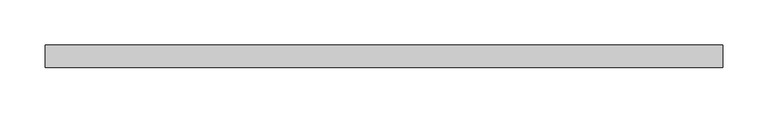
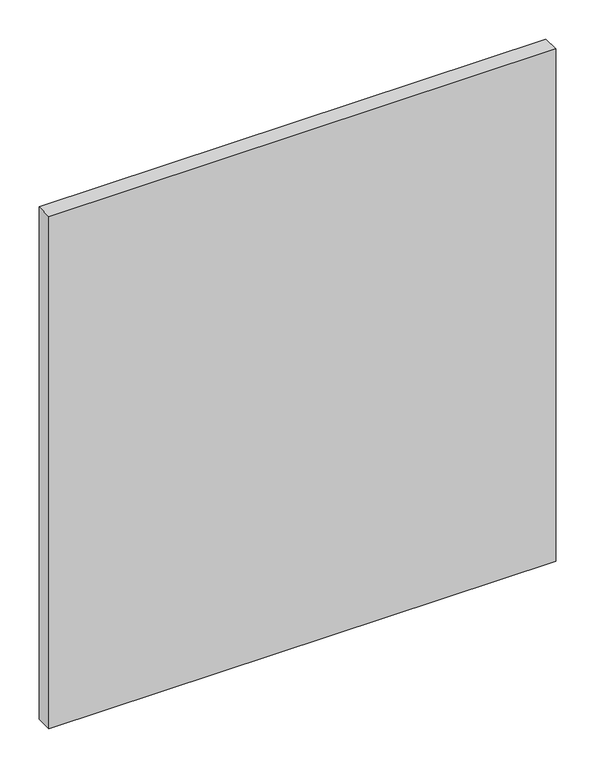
"""IFC4 building model written with IfcOpenShell, lengths in millimetres: plate geometry, 系统嵌板 : 玻璃."""

import ifcopenshell
import ifcopenshell.guid

model = None  # the IFC model being written
_history = None  # IfcOwnerHistory: only IFC2X3 demands one
_inside = {}  # id of a spatial element -> (the spatial element, [elements in it])
_under = {}  # id of a project, library or spatial element -> (it, [spatial elements below it])
_declared = {}  # id of a project -> (the project, [libraries it declares])
_typed = {}  # id of a type object -> (the type object, [elements of that type])
_made_of = {}  # id of a material, layer set ... -> (it, [elements and type objects made of it])


def new_model(schema):
    """Start an empty IFC model of exactly this schema.

    Asked for "IFC4X3", IfcOpenShell would pick the latest addendum, in which some entities
    have other attributes; the version numbers below select the first issue.
    IFC2X3 requires an IfcOwnerHistory on every rooted entity: one is made here for all.
    """
    global model, _history
    if schema == "IFC4X3":
        model = ifcopenshell.file(schema_version=(4, 3, 0, 0))
    else:
        model = ifcopenshell.file(schema=schema)
    _inside.clear()
    _under.clear()
    _declared.clear()
    _typed.clear()
    _made_of.clear()
    _history = None
    if model.schema == "IFC2X3":
        org = make("IfcOrganization", Name="unknown")
        user = make(
            "IfcPersonAndOrganization",
            ThePerson=make("IfcPerson", FamilyName="unknown"),
            TheOrganization=org,
        )
        app = make(
            "IfcApplication",
            ApplicationDeveloper=org,
            Version="unknown",
            ApplicationFullName="unknown",
            ApplicationIdentifier="unknown",
        )
        _history = make(
            "IfcOwnerHistory",
            OwningUser=user,
            OwningApplication=app,
            ChangeAction="ADDED",
            CreationDate=0,
        )
    return model


def make(cls, **values):
    """One entity of the class cls with the attributes given. An attribute that is None is left unset."""
    return model.create_entity(
        cls, **{name: value for name, value in values.items() if value is not None}
    )


def rooted(cls, **values):
    """An entity with a GlobalId (a new one), such as an element, a storey or a relation."""
    return make(cls, GlobalId=ifcopenshell.guid.new(), OwnerHistory=_history, **values)


def si_unit(unit_type, name, prefix=None):
    """IfcSIUnit, for example si_unit("LENGTHUNIT", "METRE", prefix="MILLI")."""
    return make("IfcSIUnit", UnitType=unit_type, Prefix=prefix, Name=name)


def assignment(units):
    """IfcUnitAssignment: the units of a project."""
    return None if units is None else make("IfcUnitAssignment", Units=units)


def point(xyz):
    """IfcCartesianPoint."""
    return None if xyz is None else make("IfcCartesianPoint", Coordinates=xyz)


def direction(xyz):
    """IfcDirection."""
    return None if xyz is None else make("IfcDirection", DirectionRatios=xyz)


def frame(location, z_axis=None, x_axis=None):
    """IfcAxis2Placement3D, a coordinate frame: its origin and axes. An axis left out is left unset."""
    return make(
        "IfcAxis2Placement3D",
        Location=point(location),
        Axis=direction(z_axis),
        RefDirection=direction(x_axis),
    )


def origin():
    """The frame at (0, 0, 0) with its axes left unset."""
    return frame((0.0, 0.0, 0.0))


def origin_with_axes():
    """The frame at (0, 0, 0) with the z axis (0, 0, 1) and the x axis (1, 0, 0) written out."""
    return frame((0.0, 0.0, 0.0), z_axis=(0.0, 0.0, 1.0), x_axis=(1.0, 0.0, 0.0))


def place(relative_to, where):
    """IfcLocalPlacement: puts the frame where relative to a parent placement (None: the world)."""
    return make(
        "IfcLocalPlacement", PlacementRelTo=relative_to, RelativePlacement=where
    )


def context(
    kind, dimensions, precision=None, world=None, true_north=None, identifier=None
):
    """IfcGeometricRepresentationContext, for example the 3D "Model" context."""
    return make(
        "IfcGeometricRepresentationContext",
        ContextIdentifier=identifier,
        ContextType=kind,
        CoordinateSpaceDimension=dimensions,
        Precision=precision,
        WorldCoordinateSystem=world,
        TrueNorth=true_north,
    )


def project(units=None, contexts=None):
    """IfcProject with its units and contexts."""
    return rooted(
        "IfcProject",
        Name="project",
        RepresentationContexts=contexts,
        UnitsInContext=assignment(units),
    )


def spatial(cls, under=None, at=None, **own):
    """A site, building, storey or space (cls), placed at a placement, below another one or the project."""
    s = rooted(cls, ObjectPlacement=at, **own)
    if under is not None:
        _under.setdefault(under.id(), (under, []))[1].append(s)
    return s


def polyline(points):
    """IfcPolyline through the points."""
    return make("IfcPolyline", Points=[point(p) for p in points])


def outline(outer, holes=None, kind="AREA"):
    """IfcArbitraryClosedProfileDef: a profile drawn as a closed curve; with holes, ...WithVoids."""
    if holes is None:
        return make("IfcArbitraryClosedProfileDef", ProfileType=kind, OuterCurve=outer)
    return make(
        "IfcArbitraryProfileDefWithVoids",
        ProfileType=kind,
        OuterCurve=outer,
        InnerCurves=holes,
    )


def extrude(swept, where, along, depth):
    """IfcExtrudedAreaSolid: the profile swept, set in the frame where, extruded along a direction by depth."""
    return make(
        "IfcExtrudedAreaSolid",
        SweptArea=swept,
        Position=where,
        ExtrudedDirection=direction(along),
        Depth=depth,
    )


def shape(context_of_items, identifier, shape_type, items):
    """IfcShapeRepresentation: the items that make up one representation, for example the "Body"."""
    return make(
        "IfcShapeRepresentation",
        ContextOfItems=context_of_items,
        RepresentationIdentifier=identifier,
        RepresentationType=shape_type,
        Items=items,
    )


def source(mapping_origin, context_of_items, identifier, shape_type, items):
    """IfcRepresentationMap: a shape defined once, which mapped items show again and again."""
    return make(
        "IfcRepresentationMap",
        MappingOrigin=mapping_origin,
        MappedRepresentation=shape(context_of_items, identifier, shape_type, items),
    )


def transform(
    local_origin,
    x_axis=None,
    y_axis=None,
    z_axis=None,
    scale=None,
    scale2=None,
    scale3=None,
    uniform=True,
):
    """IfcCartesianTransformationOperator3D, or its non-uniform kind. x_axis, y_axis, z_axis: its Axis1, 2, 3."""
    if uniform:
        return make(
            "IfcCartesianTransformationOperator3D",
            Axis1=direction(x_axis),
            Axis2=direction(y_axis),
            LocalOrigin=point(local_origin),
            Scale=scale,
            Axis3=direction(z_axis),
        )
    return make(
        "IfcCartesianTransformationOperator3DnonUniform",
        Axis1=direction(x_axis),
        Axis2=direction(y_axis),
        LocalOrigin=point(local_origin),
        Scale=scale,
        Axis3=direction(z_axis),
        Scale2=scale2,
        Scale3=scale3,
    )


def mapped(mapping_source, mapping_target):
    """IfcMappedItem: shows the shape of a source again, moved by a transform."""
    return make(
        "IfcMappedItem", MappingSource=mapping_source, MappingTarget=mapping_target
    )


def made_of(thing, what):
    """Note that an element or type object is made of a material, layer set ...; save() writes the relation."""
    if what is not None:
        _made_of.setdefault(what.id(), (what, []))[1].append(thing)
    return thing


def element(
    cls,
    number,
    at=None,
    inside=None,
    cuts=None,
    type_object=None,
    material=None,
    context=None,
    identifier="Body",
    shape_type=None,
    held_by="IfcProductDefinitionShape",
    body=None,
    shapes=None,
    **own,
):
    """One element of the class cls, such as IfcWall. Its Tag is "e" and its number.

    at: its placement. inside: the storey or other place that contains it. cuts: it is an
    opening in that element (IfcRelVoidsElement). A single representation is given by context,
    identifier, shape_type and body (its items); several are given by shapes. held_by: the class
    of the entity that holds the representations. save() writes the other relations.
    """
    e = rooted(cls, Tag="e%d" % number, ObjectPlacement=at, **own)
    if body is not None:
        shapes = [shape(context, identifier, shape_type, body)]
    if shapes is not None:
        e.Representation = make(held_by, Representations=shapes)
    if inside is not None:
        _inside.setdefault(inside.id(), (inside, []))[1].append(e)
    if cuts is not None:
        rooted(
            "IfcRelVoidsElement", RelatingBuildingElement=cuts, RelatedOpeningElement=e
        )
    if type_object is not None:
        _typed.setdefault(type_object.id(), (type_object, []))[1].append(e)
    return made_of(e, material)


def aggregate(whole, parts):
    """IfcRelAggregates: a whole, such as a stair, and the parts it consists of."""
    return rooted("IfcRelAggregates", RelatingObject=whole, RelatedObjects=parts)


def save(model, path):
    """Write the relations noted so far, then the file.

    IfcRelAggregates (storeys below a building ...), IfcRelContainedInSpatialStructure (elements
    in a storey), IfcRelDefinesByType, IfcRelAssociatesMaterial and IfcRelDeclares: one each for
    every whole, place, type object, material and project.
    """
    for whole, parts in _under.values():
        aggregate(whole, parts)
    for where, things in _inside.values():
        rooted(
            "IfcRelContainedInSpatialStructure",
            RelatedElements=things,
            RelatingStructure=where,
        )
    for kind, things in _typed.values():
        rooted("IfcRelDefinesByType", RelatedObjects=things, RelatingType=kind)
    for what, things in _made_of.values():
        rooted("IfcRelAssociatesMaterial", RelatedObjects=things, RelatingMaterial=what)
    for by, libraries in _declared.values():
        rooted("IfcRelDeclares", RelatingContext=by, RelatedDefinitions=libraries)
    model.write(path)


def plate_9a913afb(model_context):
    return source(origin(), model_context, "Body", "SweptSolid", [
        extrude(outline(polyline([(374.2640687, -12.5), (-374.2640687, -12.5), (-374.2640687, 12.5), (374.2640687, 12.5), (374.2640687, -12.5)])), origin_with_axes(), (0.0, 0.0, 1.0), 800.0),
    ])


if __name__ == "__main__":
    model = new_model("IFC4")
    model_context = context("Model", 3, world=origin())
    ifc_project = project(units=[si_unit("LENGTHUNIT", "METRE", prefix="MILLI")], contexts=[model_context])
    site = spatial("IfcSite", under=ifc_project)
    building = spatial("IfcBuilding", under=site)
    placement = place(None, origin())
    plate_shape = plate_9a913afb(model_context)
    element("IfcPlate", 1, ObjectType="系统嵌板 : 玻璃", at=placement, inside=building, context=model_context, shape_type="MappedRepresentation", body=[
        mapped(plate_shape, transform((0.0, 0.0, 0.0), x_axis=(1.0, 0.0, 0.0), y_axis=(0.0, 1.0, 0.0), z_axis=(0.0, 0.0, 1.0))),
    ])
    save(model, "model.ifc")
